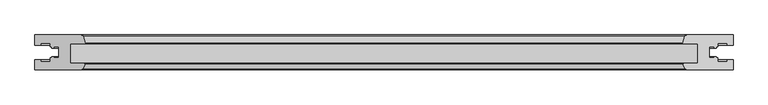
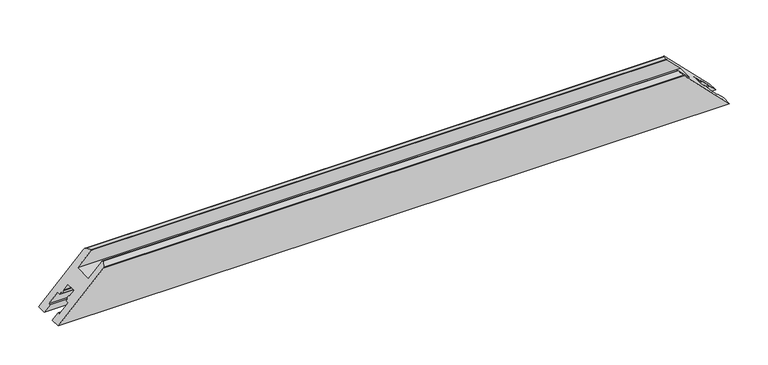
"""IFC4 building model written with IfcOpenShell, lengths in millimetres: proxy geometry, Weiku - Montante - Folha de correr 02.2.01.020 : Weiku - Montante - Folha de correr 02.2.01.020."""

from ifc_helpers import new_model, si_unit, frame, origin, place, context, project, spatial, ellipse_curve, source, transform, mapped, element, save
from ifc_brep_helpers import plane_surface, cylinder_surface, advanced_brep


def generic_models_e760cd1a(model_context):
    return source(origin(), model_context, "Body", "AdvancedBrep", [
        advanced_brep(
        [(501.125, 50.0, 0.0), (-501.125, 50.0, 0.0), (-434.6254942, 50.0, 66.4995058), (434.6254942, 50.0, 66.4995058), (501.125, 35.5, 0.0), (-501.125, 35.5, 0.0), (-501.125, 0.0, 0.0), (501.125, 0.0, 0.0), (433.6129875, 0.0, 67.5120125), (-433.6129875, 0.0, 67.5120125), (-492.525, 35.5, 8.6), (-492.525, 38.3, 8.6), (-479.325, 38.3, 21.8), (-479.325, 33.1, 21.8), (-476.9774152, 33.1, 24.1475848), (-477.1523926, 31.1, 23.9726074), (-474.325, 31.1, 26.8), (-474.325, 33.1, 26.8), (-467.125, 33.1, 34.0), (-467.125, 16.9, 34.0), (-474.325, 16.9, 26.8), (-474.325, 18.9, 26.8), (-477.1523926, 18.9, 23.9726074), (-476.9774152, 16.9, 24.1475848), (-479.325, 16.9, 21.8), (-479.325, 11.7, 21.8), (-492.525, 11.7, 8.6), (-492.525, 14.5, 8.6), (-501.125, 14.5, 0.0), (-432.7190268, 0.5518546, 68.4059732), (-429.1770406, 7.617411, 71.9479594), (-430.3391895, 9.5, 70.7858105), (-450.1257611, 9.5, 50.9992389), (-450.1257611, 37.5, 50.9992389), (-429.6257611, 37.5, 71.4992389), (-429.1427981, 38.1294095, 71.9822019), (-431.7277168, 47.7764571, 69.3972832), (431.7277168, 47.7764571, 69.3972832), (429.1427981, 38.1294095, 71.9822019), (429.6257611, 37.5, 71.4992389), (450.1257611, 37.5, 50.9992389), (450.1257611, 9.5, 50.9992389), (430.3391895, 9.5, 70.7858105), (429.1770406, 7.617411, 71.9479594), (432.7190268, 0.5518546, 68.4059732), (501.125, 14.5, 0.0), (492.525, 14.5, 8.6), (492.525, 11.7, 8.6), (479.325, 11.7, 21.8), (479.325, 16.9, 21.8), (476.9774152, 16.9, 24.1475848), (477.1523926, 18.9, 23.9726074), (474.325, 18.9, 26.8), (474.325, 16.9, 26.8), (467.125, 16.9, 34.0), (467.125, 33.1, 34.0), (474.325, 33.1, 26.8), (474.325, 31.1, 26.8), (477.1523926, 31.1, 23.9726074), (476.9774152, 33.1, 24.1475848), (479.325, 33.1, 21.8), (479.325, 38.3, 21.8), (492.525, 38.3, 8.6), (492.525, 35.5, 8.6)],
        [
            (0, 1),
            (1, 2),
            (2, 3),
            (3, 0),
            (0, 4),
            (4, 5),
            (5, 1),
            (6, 7),
            (7, 8),
            (8, 9),
            (9, 6),
            (5, 10),
            (10, 11),
            (11, 12),
            (12, 13),
            (13, 14),
            (14, 15),
            (15, 16),
            (16, 17),
            (17, 18),
            (18, 19),
            (19, 20),
            (20, 21),
            (21, 22),
            (22, 23),
            (23, 24),
            (24, 25),
            (25, 26),
            (26, 27),
            (27, 28),
            (28, 6),
            (9, 29, ellipse_curve(frame((-433.6129875, 1.0, 67.5120125), z_axis=(-0.707106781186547, 0.0, 0.7071067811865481), x_axis=(-0.7071067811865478, 0.0, -0.707106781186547)), 1.4142136, 1.0)),
            (29, 30),
            (30, 31, ellipse_curve(frame((-430.3391895, 8.2, 70.7858105), z_axis=(-0.707106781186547, 0.0, 0.7071067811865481), x_axis=(-0.7071067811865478, 0.0, -0.707106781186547)), 1.8384776, 1.3)),
            (31, 32),
            (32, 33),
            (33, 34),
            (34, 35, ellipse_curve(frame((-429.6257611, 38.0, 71.4992389), z_axis=(-0.707106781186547, 0.0, 0.7071067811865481), x_axis=(-0.7071067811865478, 0.0, -0.707106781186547)), 0.7071068, 0.5)),
            (35, 36),
            (36, 2, ellipse_curve(frame((-434.6254942, 47.0, 66.4995058), z_axis=(-0.707106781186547, 0.0, 0.7071067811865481), x_axis=(-0.7071067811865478, 0.0, -0.707106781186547)), 4.2426407, 3.0)),
            (3, 37, ellipse_curve(frame((434.6254942, 47.0, 66.4995058), z_axis=(0.7071067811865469, 0.0, 0.7071067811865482), x_axis=(-0.707106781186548, 0.0, 0.7071067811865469)), 4.2426407, 3.0)),
            (37, 38),
            (38, 39, ellipse_curve(frame((429.6257611, 38.0, 71.4992389), z_axis=(0.7071067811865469, 0.0, 0.7071067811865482), x_axis=(-0.707106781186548, 0.0, 0.7071067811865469)), 0.7071068, 0.5)),
            (39, 40),
            (40, 41),
            (41, 42),
            (42, 43, ellipse_curve(frame((430.3391895, 8.2, 70.7858105), z_axis=(0.7071067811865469, 0.0, 0.7071067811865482), x_axis=(-0.707106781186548, 0.0, 0.7071067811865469)), 1.8384776, 1.3)),
            (43, 44),
            (44, 8, ellipse_curve(frame((433.6129875, 1.0, 67.5120125), z_axis=(0.7071067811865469, 0.0, 0.7071067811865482), x_axis=(-0.707106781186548, 0.0, 0.7071067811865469)), 1.4142136, 1.0)),
            (7, 45),
            (45, 46),
            (46, 47),
            (47, 48),
            (48, 49),
            (49, 50),
            (50, 51),
            (51, 52),
            (52, 53),
            (53, 54),
            (54, 55),
            (55, 56),
            (56, 57),
            (57, 58),
            (58, 59),
            (59, 60),
            (60, 61),
            (61, 62),
            (62, 63),
            (63, 4),
            (44, 29),
            (43, 30),
            (42, 31),
            (41, 32),
            (40, 33),
            (39, 34),
            (38, 35),
            (37, 36),
            (63, 10),
            (62, 11),
            (61, 12),
            (60, 13),
            (59, 14),
            (58, 15),
            (57, 16),
            (56, 17),
            (55, 18),
            (54, 19),
            (53, 20),
            (52, 21),
            (51, 22),
            (50, 23),
            (49, 24),
            (48, 25),
            (47, 26),
            (46, 27),
            (45, 28),
        ],
        [
            plane_surface(frame((-501.125, 50.0, 66.4995058), z_axis=(0.0, 1.0, 0.0), x_axis=(1.0, 0.0, 0.0))),
            plane_surface(frame((-501.125, 50.0, 0.0), z_axis=(0.0, 0.0, -1.0), x_axis=(1.0, 0.0, 0.0))),
            plane_surface(frame((-501.125, 0.0, 0.0), z_axis=(0.0, -1.0, 0.0), x_axis=(1.0, 0.0, 0.0))),
            plane_surface(frame((-529.4092712, 0.0, -28.2842712), z_axis=(-0.707106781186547, 0.0, 0.7071067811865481), x_axis=(0.0, 1.0, 0.0))),
            plane_surface(frame((421.125, 0.0, 80.0), z_axis=(0.7071067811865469, 0.0, 0.7071067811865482), x_axis=(0.0, 1.0, 0.0))),
            cylinder_surface(frame((-501.125, 1.0, 67.5120125), z_axis=(-1.0, 0.0, 0.0), x_axis=(0.0, 1.0, 0.0)), 1.0),
            plane_surface(frame((-501.125, 0.5518546, 68.4059732), z_axis=(0.0, -0.4481453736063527, 0.8939606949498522), x_axis=(1.0, 0.0, 0.0))),
            cylinder_surface(frame((-501.125, 8.2, 70.7858105), z_axis=(-1.0, 0.0, 0.0), x_axis=(0.0, 1.0, 0.0)), 1.3),
            plane_surface(frame((-501.125, 9.5, 70.7858105), z_axis=(0.0, 1.0, 0.0), x_axis=(1.0, 0.0, 0.0))),
            plane_surface(frame((-501.125, 9.5, 50.9992389), z_axis=(0.0, 0.0, 1.0), x_axis=(1.0, 0.0, 0.0))),
            plane_surface(frame((-501.125, 37.5, 50.9992389), z_axis=(0.0, -1.0, 0.0), x_axis=(1.0, 0.0, 0.0))),
            cylinder_surface(frame((-501.125, 38.0, 71.4992389), z_axis=(-1.0, 0.0, 0.0), x_axis=(0.0, 1.0, 0.0)), 0.5),
            plane_surface(frame((-501.125, 38.1294095, 71.9822019), z_axis=(0.0, 0.2588190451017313, 0.9659258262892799), x_axis=(1.0, 0.0, 0.0))),
            cylinder_surface(frame((-501.125, 47.0, 66.4995058), z_axis=(-1.0, 0.0, 0.0), x_axis=(0.0, 1.0, 0.0)), 3.0),
            plane_surface(frame((-501.125, 35.5, 0.0), z_axis=(0.0, -1.0, 0.0), x_axis=(1.0, 0.0, 0.0))),
            plane_surface(frame((-501.125, 35.5, 8.6), z_axis=(0.0, 0.0, 1.0), x_axis=(1.0, 0.0, 0.0))),
            plane_surface(frame((-501.125, 38.3, 8.6), z_axis=(0.0, -1.0, 0.0), x_axis=(1.0, 0.0, 0.0))),
            plane_surface(frame((-501.125, 38.3, 21.8), z_axis=(0.0, 0.0, -1.0), x_axis=(1.0, 0.0, 0.0))),
            plane_surface(frame((-501.125, 33.1, 21.8), z_axis=(0.0, -1.0, 0.0), x_axis=(1.0, 0.0, 0.0))),
            plane_surface(frame((-501.125, 33.1, 24.1475848), z_axis=(0.0, 0.08715574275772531, -0.9961946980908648), x_axis=(1.0, 0.0, 0.0))),
            plane_surface(frame((-501.125, 31.1, 23.9726074), z_axis=(0.0, -1.0, 0.0), x_axis=(1.0, 0.0, 0.0))),
            plane_surface(frame((-501.125, 31.1, 26.8), z_axis=(0.0, 0.0, 1.0), x_axis=(1.0, 0.0, 0.0))),
            plane_surface(frame((-501.125, 33.1, 26.8), z_axis=(0.0, -1.0, 0.0), x_axis=(1.0, 0.0, 0.0))),
            plane_surface(frame((-501.125, 33.1, 34.0), z_axis=(0.0, 0.0, -1.0), x_axis=(1.0, 0.0, 0.0))),
            plane_surface(frame((-501.125, 16.9, 34.0), z_axis=(0.0, 1.0, 0.0), x_axis=(1.0, 0.0, 0.0))),
            plane_surface(frame((-501.125, 16.9, 26.8), z_axis=(0.0, 0.0, 1.0), x_axis=(1.0, 0.0, 0.0))),
            plane_surface(frame((-501.125, 18.9, 26.8), z_axis=(0.0, 1.0, 0.0), x_axis=(1.0, 0.0, 0.0))),
            plane_surface(frame((-501.125, 18.9, 23.9726074), z_axis=(0.0, -0.08715574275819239, -0.9961946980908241), x_axis=(1.0, 0.0, 0.0))),
            plane_surface(frame((-501.125, 16.9, 24.1475848), z_axis=(0.0, 1.0, 0.0), x_axis=(1.0, 0.0, 0.0))),
            plane_surface(frame((-501.125, 16.9, 21.8), z_axis=(0.0, 0.0, -1.0), x_axis=(1.0, 0.0, 0.0))),
            plane_surface(frame((-501.125, 11.7, 21.8), z_axis=(0.0, 1.0, 0.0), x_axis=(1.0, 0.0, 0.0))),
            plane_surface(frame((-501.125, 11.7, 8.6), z_axis=(0.0, 0.0, 1.0), x_axis=(1.0, 0.0, 0.0))),
            plane_surface(frame((-501.125, 14.5, 8.6), z_axis=(0.0, 1.0, 0.0), x_axis=(1.0, 0.0, 0.0))),
            plane_surface(frame((-501.125, 14.5, 0.0), z_axis=(0.0, 0.0, -1.0), x_axis=(1.0, 0.0, 0.0))),
        ],
        [
            (0, [[1, 2, 3, 4]]),
            (1, [[-1, 5, 6, 7]]),
            (2, [[8, 9, 10, 11]]),
            (3, [[-2, -7, 12, 13, 14, 15, 16, 17, 18, 19, 20, 21, 22, 23, 24, 25, 26, 27, 28, 29, 30, 31, -11, 32, 33, 34, 35, 36, 37, 38, 39, 40]]),
            (4, [[-4, 41, 42, 43, 44, 45, 46, 47, 48, 49, -9, 50, 51, 52, 53, 54, 55, 56, 57, 58, 59, 60, 61, 62, 63, 64, 65, 66, 67, 68, 69, -5]]),
            (5, [[-32, -10, -49, 70]]),
            (6, [[-33, -70, -48, 71]]),
            (7, [[-34, -71, -47, 72]]),
            (8, [[-35, -72, -46, 73]]),
            (9, [[-36, -73, -45, 74]]),
            (10, [[-37, -74, -44, 75]]),
            (11, [[-38, -75, -43, 76]]),
            (12, [[-39, -76, -42, 77]]),
            (13, [[-40, -77, -41, -3]]),
            (14, [[-6, -69, 78, -12]]),
            (15, [[-13, -78, -68, 79]]),
            (16, [[-14, -79, -67, 80]]),
            (17, [[-15, -80, -66, 81]]),
            (18, [[-16, -81, -65, 82]]),
            (19, [[-17, -82, -64, 83]]),
            (20, [[-18, -83, -63, 84]]),
            (21, [[-19, -84, -62, 85]]),
            (22, [[-20, -85, -61, 86]]),
            (23, [[-21, -86, -60, 87]]),
            (24, [[-22, -87, -59, 88]]),
            (25, [[-23, -88, -58, 89]]),
            (26, [[-24, -89, -57, 90]]),
            (27, [[-25, -90, -56, 91]]),
            (28, [[-26, -91, -55, 92]]),
            (29, [[-27, -92, -54, 93]]),
            (30, [[-28, -93, -53, 94]]),
            (31, [[-29, -94, -52, 95]]),
            (32, [[96, -30, -95, -51]]),
            (33, [[-8, -31, -96, -50]]),
        ],
    ),
    ])


if __name__ == "__main__":
    model = new_model("IFC4")
    model_context = context("Model", 3, world=origin())
    ifc_project = project(units=[si_unit("LENGTHUNIT", "METRE", prefix="MILLI")], contexts=[model_context])
    site = spatial("IfcSite", under=ifc_project)
    building = spatial("IfcBuilding", under=site)
    placement = place(None, origin())
    generic_models_shape = generic_models_e760cd1a(model_context)
    element("IfcBuildingElementProxy", 1, Name="Weiku - Montante - Folha de correr 02.2.01.020 : Weiku - Montante - Folha de correr 02.2.01.020", ObjectType="Weiku - Montante - Folha de correr 02.2.01.020 : Weiku - Montante - Folha de correr 02.2.01.020", at=placement, inside=building, context=model_context, shape_type="MappedRepresentation", body=[
        mapped(generic_models_shape, transform((0.0, 0.0, 0.0), x_axis=(1.0, 0.0, 0.0), y_axis=(0.0, 1.0, 0.0), z_axis=(0.0, 0.0, 1.0))),
    ])
    save(model, "model.ifc")
